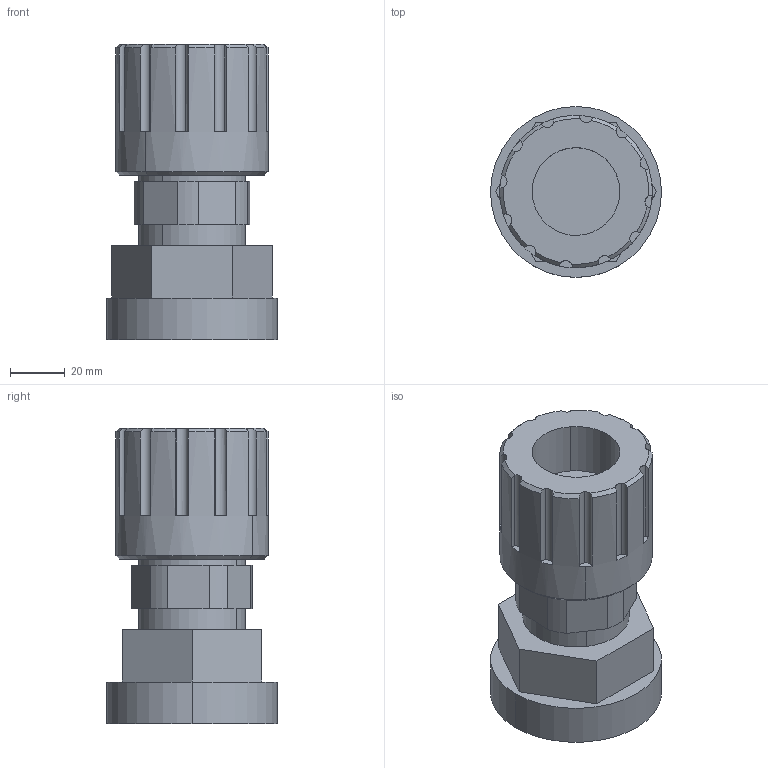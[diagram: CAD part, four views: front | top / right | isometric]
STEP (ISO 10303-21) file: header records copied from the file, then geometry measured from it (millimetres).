
FILE_DESCRIPTION (( 'STEP AP214' ), '1' );
FILE_NAME ('20-flaretek-top-out.STEP', '2012-12-03T21:14:31', ( '' ), ( '' ), 'SwSTEP 2.0', 'SolidWorks 2012', '' );
FILE_SCHEMA (( 'AUTOMOTIVE_DESIGN' ));
Length unit declared in the file: inch
Products named in the file (1): 20-flaretek-top-out
Bounding box: 62.33 x 62.33 x 107.58 mm (x, y, z)
Volume: 219340.5 mm3; surface area: 29788.2 mm2
Topology: 1 solids, 1 shells, 79 faces, 211 edges, 140 vertices
Faces by surface type: cylinder 33, plane 32, cone 14
Entity records: 2677 total; most frequent: CARTESIAN_POINT 557, DIRECTION 447, ORIENTED_EDGE 422, EDGE_CURVE 211, AXIS2_PLACEMENT_3D 182, VERTEX_POINT 140, CIRCLE 102, EDGE_LOOP 85
